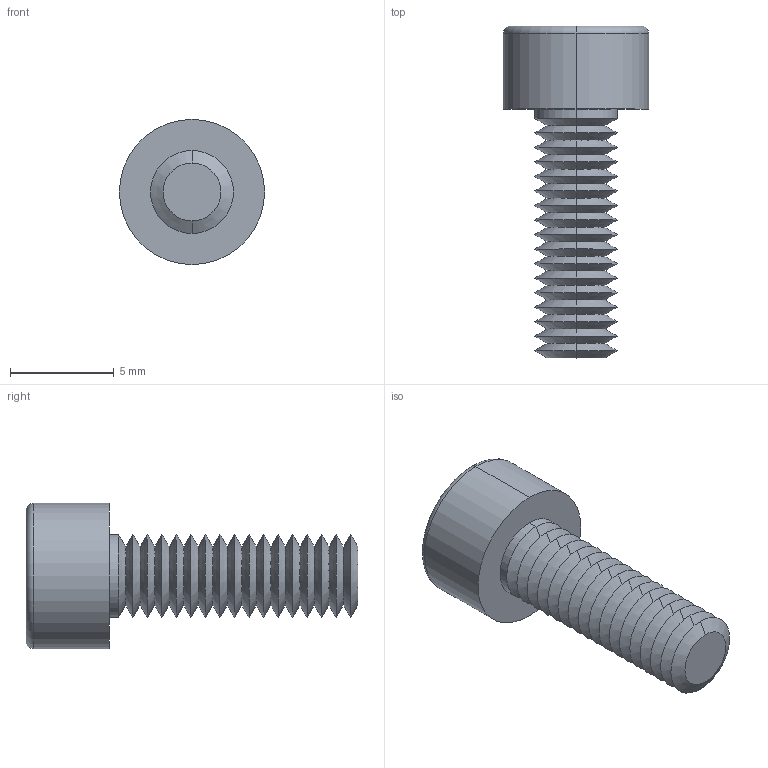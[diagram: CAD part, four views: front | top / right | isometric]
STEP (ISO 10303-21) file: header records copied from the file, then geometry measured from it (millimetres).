
FILE_DESCRIPTION (( 'STEP AP203' ), '1' );
FILE_NAME ('91N.040.0120.step', '2025-05-20T08:50:54', ( '' ), ( '' ), 'SwSTEP 2.0', 'SolidWorks 2019', '' );
FILE_SCHEMA (( 'CONFIG_CONTROL_DESIGN' ));
Length unit declared in the file: millimetre
Products named in the file (1): 91N.040.0120
Bounding box: 7 x 16 x 7 mm (x, y, z)
Volume: 239.2 mm3; surface area: 439 mm2
Topology: 1 solids, 1 shells, 96 faces, 191 edges, 97 vertices
Faces by surface type: cone 75, plane 15, cylinder 4, torus 2
Entity records: 2478 total; most frequent: DIRECTION 467, CARTESIAN_POINT 410, ORIENTED_EDGE 378, EDGE_CURVE 189, AXIS2_PLACEMENT_3D 188, EDGE_LOOP 98, VERTEX_POINT 97, ADVANCED_FACE 96
